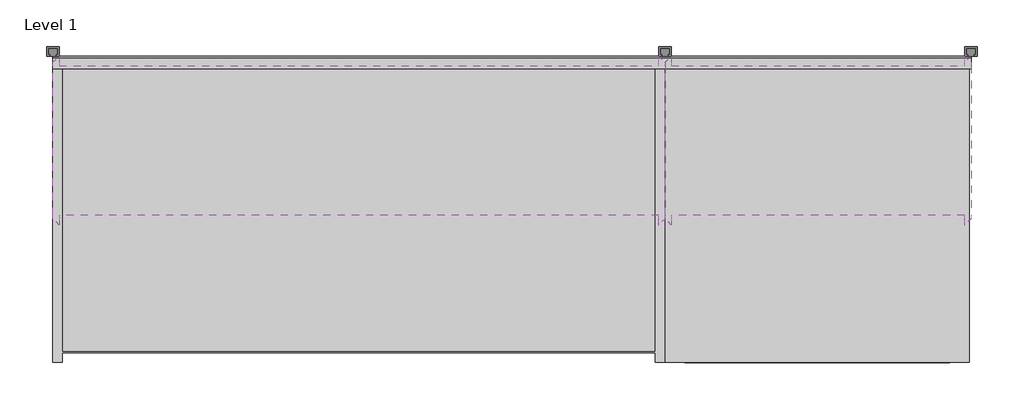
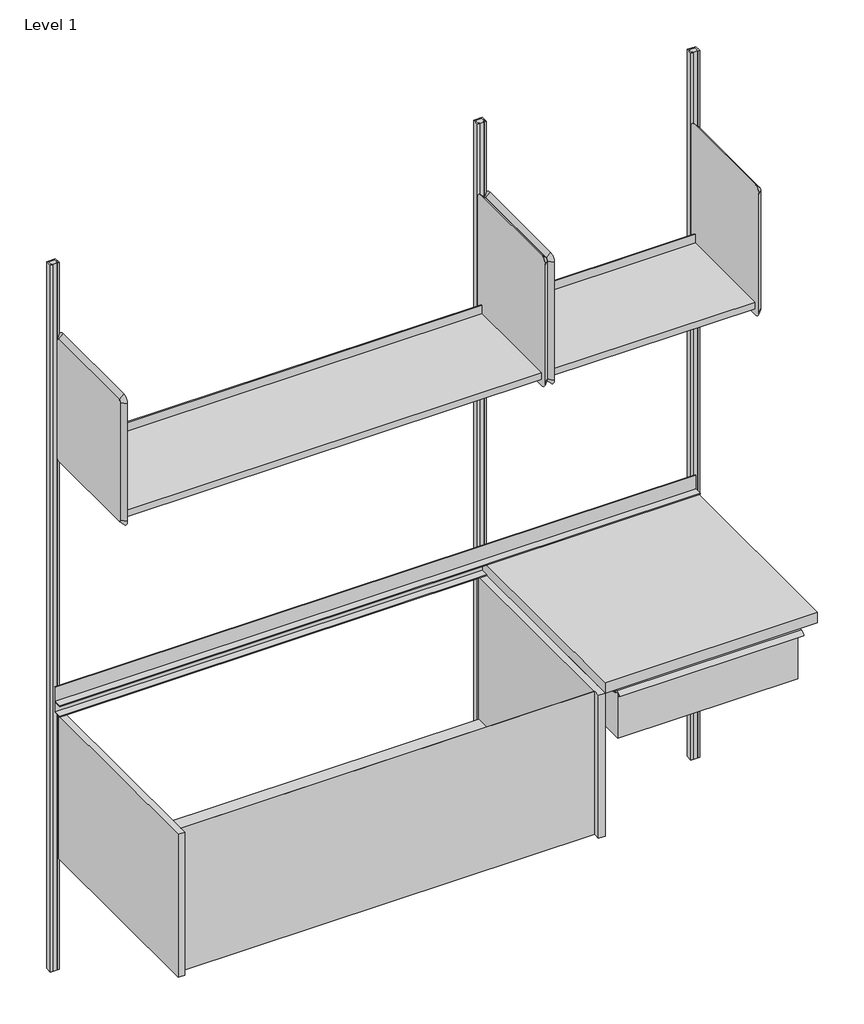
# One storey, incomplete: 10 furniture elements.
"""IFC4 building model written with IfcOpenShell, lengths in millimetres."""

from ifc_helpers import new_model, si_unit, origin, place, context, project, spatial, transform, mapped, element, save
from components import furniture_7f08a233, furniture_d92eedc3, furniture_ea4a19f1, furniture_224c88e3, furniture_8d228605, furniture_fa600c10, furniture_ea425779, b_6_50075038

model = new_model("IFC4")

# Units and contexts
model_context = context("Model", 3, world=origin())
ifc_project = project(units=[si_unit("LENGTHUNIT", "METRE", prefix="MILLI")], contexts=[model_context])

# Site, building, storey
site = spatial("IfcSite", under=ifc_project)
building = spatial("IfcBuilding", under=site)
storey = spatial("IfcBuildingStorey", under=building, Name="Level 1", Elevation=0.0)

# Furniture
placement = place(None, origin())
furniture_shape = furniture_7f08a233(model_context)
element("IfcFurniture", 1, ObjectType="HermanMiller_CoStruc_C2141_Heavy-DutyWorkSurface : 24\"D x 24\"W Lam", at=placement, inside=storey, context=model_context, shape_type="MappedRepresentation", body=[
    mapped(furniture_shape, transform((1522.37694, -196.85, 0.0), x_axis=(1.0, 0.0, 0.0), y_axis=(0.0, 1.0, 0.0), z_axis=(0.0, 0.0, 1.0))),
])
furniture_2_shape = furniture_d92eedc3(model_context)
element("IfcFurniture", 2, ObjectType="HermanMiller_CoStruc_C2910_WorkSurfaceBacksplash : 3\"H x 72\"W", at=placement, inside=storey, context=model_context, shape_type="MappedRepresentation", body=[
    mapped(furniture_2_shape, transform((914.4, -19.05, 0.0), x_axis=(1.0, 0.0, 0.0), y_axis=(0.0, 1.0, 0.0), z_axis=(0.0, 0.0, 1.0))),
])
furniture_3_shape = furniture_ea4a19f1(model_context)
element("IfcFurniture", 3, ObjectType="HermanMiller_CoStruc_C2512_SinkModule : 18\"H x 24\"D x 48\"W", at=placement, inside=storey, context=model_context, shape_type="MappedRepresentation", body=[
    mapped(furniture_3_shape, transform((609.6, -206.375, 0.0), x_axis=(1.0, 0.0, 0.0), y_axis=(0.0, 1.0, 0.0), z_axis=(0.0, 0.0, 1.0))),
])
furniture_4_shape = furniture_224c88e3(model_context)
element("IfcFurniture", 4, ObjectType="HermanMiller_CoStruc_C2140R_WorkSurfaceSupport_ComponentAdaptorReady : 14H x 24D x 24W", at=placement, inside=storey, context=model_context, shape_type="MappedRepresentation", body=[
    mapped(furniture_4_shape, transform((1522.37694, -196.85, 0.0), x_axis=(1.0, 0.0, 0.0), y_axis=(0.0, 1.0, 0.0), z_axis=(0.0, 0.0, 1.0))),
])
furniture_5_shape = furniture_8d228605(model_context)
element("IfcFurniture", 5, ObjectType="HermanMiller_CoStruc_B-StyleShelf : 15-1/2H x 13D x 48W", at=placement, inside=storey, context=model_context, shape_type="MappedRepresentation", body=[
    mapped(furniture_5_shape, transform((733.6055045, -200.025, 457.2), x_axis=(1.0, 0.0, 0.0), y_axis=(0.0, 1.0, 0.0), z_axis=(0.0, 0.0, 1.0))),
])
furniture_6_shape = furniture_fa600c10(model_context)
element("IfcFurniture", 6, ObjectType="HermanMiller_CoStruc_B-StyleShelf : 15-1/2H x 13D x 24W", at=placement, inside=storey, context=model_context, shape_type="MappedRepresentation", body=[
    mapped(furniture_6_shape, transform((1647.9420045, -200.025, 457.2), x_axis=(1.0, 0.0, 0.0), y_axis=(0.0, 1.0, 0.0), z_axis=(0.0, 0.0, 1.0))),
])
furniture_7_shape = furniture_ea425779(model_context)
element("IfcFurniture", 7, ObjectType="HermanMiller_ActionOffice_AO213_WallStrip : 84\"H", at=placement, inside=storey, context=model_context, shape_type="MappedRepresentation", body=[
    mapped(furniture_7_shape, transform((1219.2, 0.0, 0.0), x_axis=(1.0, 0.0, 0.0), y_axis=(0.0, 1.0, 0.0), z_axis=(0.0, 0.0, 1.0))),
])
element("IfcFurniture", 8, ObjectType="HermanMiller_ActionOffice_AO213_WallStrip : 84\"H", at=placement, inside=storey, context=model_context, shape_type="MappedRepresentation", body=[
    mapped(furniture_7_shape, transform((1828.8, 0.0, 0.0), x_axis=(1.0, 0.0, 0.0), y_axis=(0.0, 1.0, 0.0), z_axis=(0.0, 0.0, 1.0))),
])
element("IfcFurniture", 9, ObjectType="HermanMiller_ActionOffice_AO213_WallStrip : 84\"H", at=placement, inside=storey, context=model_context, shape_type="MappedRepresentation", body=[
    mapped(furniture_7_shape, transform((0.0, 0.0, 0.0), x_axis=(1.0, 0.0, 0.0), y_axis=(0.0, 1.0, 0.0), z_axis=(0.0, 0.0, 1.0))),
])
b_6_shape = b_6_50075038(model_context)
element("IfcFurniture", 10, ObjectType="HermanMiller_CoStruc_Drawer : B - 6", at=placement, inside=storey, context=model_context, shape_type="MappedRepresentation", body=[
    mapped(b_6_shape, transform((1522.3095917, -434.975, 152.4), x_axis=(1.0, 0.0, 0.0), y_axis=(0.0, 1.0, 0.0), z_axis=(0.0, 0.0, 1.0))),
])

save(model, "model.ifc")
